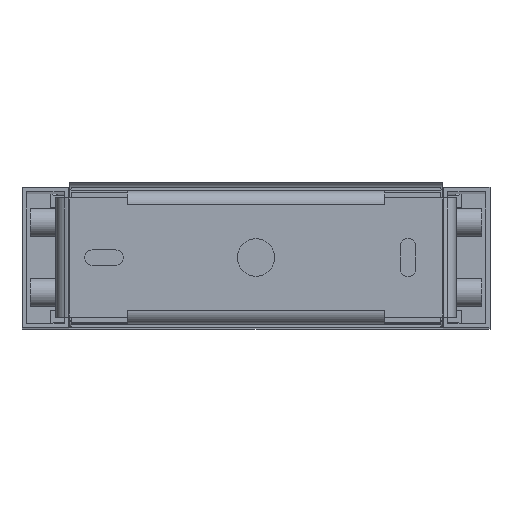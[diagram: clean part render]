
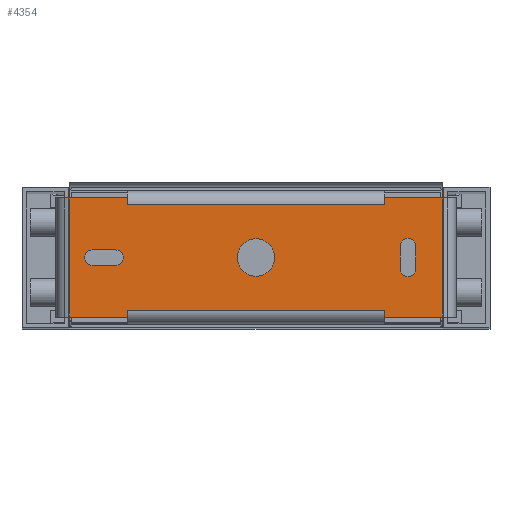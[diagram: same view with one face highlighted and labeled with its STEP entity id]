
A CAD part, top view. The second image highlights one B-rep face of the part: STEP entity #4354.
In plain terms, the highlighted planar face has unit normal (0, 0, 1).
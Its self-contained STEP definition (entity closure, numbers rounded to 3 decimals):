
#3125=CARTESIAN_POINT('',(-70.,0.,399.));
#3126=DIRECTION('',(0.,0.,-1.));
#3127=DIRECTION('',(0.,-1.,0.));
#3128=AXIS2_PLACEMENT_3D('',#3125,#3126,#3127);
#3130=DIRECTION('',(-1.,0.,0.));
#3131=VECTOR('',#3130,10.);
#3132=CARTESIAN_POINT('',(-60.,-3.25,399.));
#3133=LINE('',#3132,#3131);
#3134=CARTESIAN_POINT('',(-60.,0.,399.));
#3135=DIRECTION('',(0.,0.,-1.));
#3136=DIRECTION('',(0.,1.,0.));
#3137=AXIS2_PLACEMENT_3D('',#3134,#3135,#3136);
#3139=DIRECTION('',(1.,0.,0.));
#3140=VECTOR('',#3139,10.);
#3141=CARTESIAN_POINT('',(-70.,3.25,399.));
#3142=LINE('',#3141,#3140);
#3143=DIRECTION('',(0.,1.,0.));
#3144=VECTOR('',#3143,10.);
#3145=CARTESIAN_POINT('',(61.75,-5.,399.));
#3146=LINE('',#3145,#3144);
#3147=CARTESIAN_POINT('',(65.,-5.,399.));
#3148=DIRECTION('',(0.,0.,-1.));
#3149=DIRECTION('',(1.,0.,0.));
#3150=AXIS2_PLACEMENT_3D('',#3147,#3148,#3149);
#3152=DIRECTION('',(0.,-1.,0.));
#3153=VECTOR('',#3152,10.);
#3154=CARTESIAN_POINT('',(68.25,5.,399.));
#3155=LINE('',#3154,#3153);
#3156=CARTESIAN_POINT('',(65.,5.,399.));
#3157=DIRECTION('',(0.,0.,-1.));
#3158=DIRECTION('',(-1.,0.,0.));
#3159=AXIS2_PLACEMENT_3D('',#3156,#3157,#3158);
#3161=CARTESIAN_POINT('',(0.,0.,399.));
#3162=DIRECTION('',(0.,0.,-1.));
#3163=DIRECTION('',(1.,0.,0.));
#3164=AXIS2_PLACEMENT_3D('',#3161,#3162,#3163);
#3166=CARTESIAN_POINT('',(0.,0.,399.));
#3167=DIRECTION('',(0.,0.,-1.));
#3168=DIRECTION('',(-1.,0.,0.));
#3169=AXIS2_PLACEMENT_3D('',#3166,#3167,#3168);
#3171=DIRECTION('',(-1.,0.,0.));
#3172=VECTOR('',#3171,110.);
#3173=CARTESIAN_POINT('',(55.,22.5,399.));
#3174=LINE('',#3173,#3172);
#3175=DIRECTION('',(0.,1.,0.));
#3176=VECTOR('',#3175,3.);
#3177=CARTESIAN_POINT('',(55.,22.5,399.));
#3178=LINE('',#3177,#3176);
#3179=DIRECTION('',(1.,0.,0.));
#3180=VECTOR('',#3179,25.);
#3181=CARTESIAN_POINT('',(55.,25.5,399.));
#3182=LINE('',#3181,#3180);
#3183=DIRECTION('',(0.,-1.,0.));
#3184=VECTOR('',#3183,0.5);
#3185=CARTESIAN_POINT('',(80.,25.5,399.));
#3186=LINE('',#3185,#3184);
#3187=DIRECTION('',(-1.,0.,0.));
#3188=VECTOR('',#3187,0.5);
#3189=CARTESIAN_POINT('',(80.,25.,399.));
#3190=LINE('',#3189,#3188);
#3191=DIRECTION('',(0.,1.,0.));
#3192=VECTOR('',#3191,50.);
#3193=CARTESIAN_POINT('',(79.5,-25.,399.));
#3194=LINE('',#3193,#3192);
#3195=DIRECTION('',(1.,0.,0.));
#3196=VECTOR('',#3195,0.5);
#3197=CARTESIAN_POINT('',(79.5,-25.,399.));
#3198=LINE('',#3197,#3196);
#3199=DIRECTION('',(0.,-1.,0.));
#3200=VECTOR('',#3199,0.5);
#3201=CARTESIAN_POINT('',(80.,-25.,399.));
#3202=LINE('',#3201,#3200);
#3203=DIRECTION('',(-1.,0.,0.));
#3204=VECTOR('',#3203,25.);
#3205=CARTESIAN_POINT('',(80.,-25.5,399.));
#3206=LINE('',#3205,#3204);
#3207=DIRECTION('',(0.,1.,0.));
#3208=VECTOR('',#3207,3.);
#3209=CARTESIAN_POINT('',(55.,-25.5,399.));
#3210=LINE('',#3209,#3208);
#3211=DIRECTION('',(1.,0.,0.));
#3212=VECTOR('',#3211,110.);
#3213=CARTESIAN_POINT('',(-55.,-22.5,399.));
#3214=LINE('',#3213,#3212);
#3215=DIRECTION('',(0.,-1.,0.));
#3216=VECTOR('',#3215,3.);
#3217=CARTESIAN_POINT('',(-55.,-22.5,399.));
#3218=LINE('',#3217,#3216);
#3219=DIRECTION('',(-1.,0.,0.));
#3220=VECTOR('',#3219,25.);
#3221=CARTESIAN_POINT('',(-55.,-25.5,399.));
#3222=LINE('',#3221,#3220);
#3223=DIRECTION('',(0.,1.,0.));
#3224=VECTOR('',#3223,0.5);
#3225=CARTESIAN_POINT('',(-80.,-25.5,399.));
#3226=LINE('',#3225,#3224);
#3227=DIRECTION('',(1.,0.,0.));
#3228=VECTOR('',#3227,0.5);
#3229=CARTESIAN_POINT('',(-80.,-25.,399.));
#3230=LINE('',#3229,#3228);
#3231=DIRECTION('',(0.,-1.,0.));
#3232=VECTOR('',#3231,50.);
#3233=CARTESIAN_POINT('',(-79.5,25.,399.));
#3234=LINE('',#3233,#3232);
#3235=DIRECTION('',(-1.,0.,0.));
#3236=VECTOR('',#3235,0.5);
#3237=CARTESIAN_POINT('',(-79.5,25.,399.));
#3238=LINE('',#3237,#3236);
#3239=DIRECTION('',(0.,1.,0.));
#3240=VECTOR('',#3239,0.5);
#3241=CARTESIAN_POINT('',(-80.,25.,399.));
#3242=LINE('',#3241,#3240);
#3243=DIRECTION('',(1.,0.,0.));
#3244=VECTOR('',#3243,25.);
#3245=CARTESIAN_POINT('',(-80.,25.5,399.));
#3246=LINE('',#3245,#3244);
#3247=DIRECTION('',(0.,-1.,0.));
#3248=VECTOR('',#3247,3.);
#3249=CARTESIAN_POINT('',(-55.,25.5,399.));
#3250=LINE('',#3249,#3248);
#4021=CARTESIAN_POINT('',(8.,0.,399.));
#4022=CARTESIAN_POINT('',(-8.,0.,399.));
#4023=VERTEX_POINT('',#4021);
#4024=VERTEX_POINT('',#4022);
#4025=CARTESIAN_POINT('',(-70.,-3.25,399.));
#4026=CARTESIAN_POINT('',(-70.,3.25,399.));
#4027=VERTEX_POINT('',#4025);
#4028=VERTEX_POINT('',#4026);
#4029=CARTESIAN_POINT('',(-60.,3.25,399.));
#4030=VERTEX_POINT('',#4029);
#4031=CARTESIAN_POINT('',(-60.,-3.25,399.));
#4032=VERTEX_POINT('',#4031);
#4033=CARTESIAN_POINT('',(61.75,-5.,399.));
#4034=CARTESIAN_POINT('',(61.75,5.,399.));
#4035=VERTEX_POINT('',#4033);
#4036=VERTEX_POINT('',#4034);
#4037=CARTESIAN_POINT('',(68.25,5.,399.));
#4038=VERTEX_POINT('',#4037);
#4039=CARTESIAN_POINT('',(68.25,-5.,399.));
#4040=VERTEX_POINT('',#4039);
#4097=CARTESIAN_POINT('',(55.,22.5,399.));
#4098=CARTESIAN_POINT('',(-55.,22.5,399.));
#4099=VERTEX_POINT('',#4097);
#4100=VERTEX_POINT('',#4098);
#4101=CARTESIAN_POINT('',(55.,25.5,399.));
#4102=VERTEX_POINT('',#4101);
#4103=CARTESIAN_POINT('',(-55.,25.5,399.));
#4104=VERTEX_POINT('',#4103);
#4113=CARTESIAN_POINT('',(-55.,-22.5,399.));
#4114=CARTESIAN_POINT('',(55.,-22.5,399.));
#4115=VERTEX_POINT('',#4113);
#4116=VERTEX_POINT('',#4114);
#4117=CARTESIAN_POINT('',(-55.,-25.5,399.));
#4118=VERTEX_POINT('',#4117);
#4119=CARTESIAN_POINT('',(55.,-25.5,399.));
#4120=VERTEX_POINT('',#4119);
#4121=CARTESIAN_POINT('',(-79.5,25.,399.));
#4122=CARTESIAN_POINT('',(-79.5,-25.,399.));
#4123=VERTEX_POINT('',#4121);
#4124=VERTEX_POINT('',#4122);
#4125=CARTESIAN_POINT('',(-80.,25.,399.));
#4126=VERTEX_POINT('',#4125);
#4127=CARTESIAN_POINT('',(-80.,-25.,399.));
#4128=VERTEX_POINT('',#4127);
#4129=CARTESIAN_POINT('',(79.5,-25.,399.));
#4130=CARTESIAN_POINT('',(79.5,25.,399.));
#4131=VERTEX_POINT('',#4129);
#4132=VERTEX_POINT('',#4130);
#4133=CARTESIAN_POINT('',(80.,-25.,399.));
#4134=VERTEX_POINT('',#4133);
#4135=CARTESIAN_POINT('',(80.,25.,399.));
#4136=VERTEX_POINT('',#4135);
#4137=CARTESIAN_POINT('',(-80.,-25.5,399.));
#4138=VERTEX_POINT('',#4137);
#4139=CARTESIAN_POINT('',(-80.,25.5,399.));
#4140=VERTEX_POINT('',#4139);
#4141=CARTESIAN_POINT('',(80.,25.5,399.));
#4142=VERTEX_POINT('',#4141);
#4143=CARTESIAN_POINT('',(80.,-25.5,399.));
#4144=VERTEX_POINT('',#4143);
#4282=CARTESIAN_POINT('',(0.,0.,399.));
#4283=DIRECTION('',(0.,0.,-1.));
#4284=DIRECTION('',(1.,0.,0.));
#4285=AXIS2_PLACEMENT_3D('',#4282,#4283,#4284);
#4286=PLANE('',#4285);
#4288=ORIENTED_EDGE('',*,*,#4287,.F.);
#4290=ORIENTED_EDGE('',*,*,#4289,.T.);
#4292=ORIENTED_EDGE('',*,*,#4291,.T.);
#4294=ORIENTED_EDGE('',*,*,#4293,.T.);
#4296=ORIENTED_EDGE('',*,*,#4295,.T.);
#4298=ORIENTED_EDGE('',*,*,#4297,.F.);
#4300=ORIENTED_EDGE('',*,*,#4299,.T.);
#4302=ORIENTED_EDGE('',*,*,#4301,.T.);
#4304=ORIENTED_EDGE('',*,*,#4303,.T.);
#4306=ORIENTED_EDGE('',*,*,#4305,.T.);
#4308=ORIENTED_EDGE('',*,*,#4307,.F.);
#4310=ORIENTED_EDGE('',*,*,#4309,.T.);
#4312=ORIENTED_EDGE('',*,*,#4311,.T.);
#4314=ORIENTED_EDGE('',*,*,#4313,.T.);
#4316=ORIENTED_EDGE('',*,*,#4315,.T.);
#4318=ORIENTED_EDGE('',*,*,#4317,.F.);
#4320=ORIENTED_EDGE('',*,*,#4319,.T.);
#4322=ORIENTED_EDGE('',*,*,#4321,.T.);
#4324=ORIENTED_EDGE('',*,*,#4323,.T.);
#4326=ORIENTED_EDGE('',*,*,#4325,.T.);
#4327=EDGE_LOOP('',(#4288,#4290,#4292,#4294,#4296,#4298,#4300,#4302,#4304,#4306,
#4308,#4310,#4312,#4314,#4316,#4318,#4320,#4322,#4324,#4326));
#4328=FACE_OUTER_BOUND('',#4327,.F.);
#4330=ORIENTED_EDGE('',*,*,#4329,.F.);
#4332=ORIENTED_EDGE('',*,*,#4331,.F.);
#4334=ORIENTED_EDGE('',*,*,#4333,.F.);
#4336=ORIENTED_EDGE('',*,*,#4335,.F.);
#4337=EDGE_LOOP('',(#4330,#4332,#4334,#4336));
#4338=FACE_BOUND('',#4337,.F.);
#4340=ORIENTED_EDGE('',*,*,#4339,.F.);
#4342=ORIENTED_EDGE('',*,*,#4341,.F.);
#4343=EDGE_LOOP('',(#4340,#4342));
#4344=FACE_BOUND('',#4343,.F.);
#4345=ORIENTED_EDGE('',*,*,#4272,.F.);
#4347=ORIENTED_EDGE('',*,*,#4346,.F.);
#4349=ORIENTED_EDGE('',*,*,#4348,.F.);
#4351=ORIENTED_EDGE('',*,*,#4350,.F.);
#4352=EDGE_LOOP('',(#4345,#4347,#4349,#4351));
#4353=FACE_BOUND('',#4352,.F.);
#4354=ADVANCED_FACE('',(#4328,#4338,#4344,#4353),#4286,.F.);
#3129=CIRCLE('',#3128,3.25);
#3138=CIRCLE('',#3137,3.25);
#3151=CIRCLE('',#3150,3.25);
#3160=CIRCLE('',#3159,3.25);
#3165=CIRCLE('',#3164,8.);
#3170=CIRCLE('',#3169,8.);
#4272=EDGE_CURVE('',#4027,#4028,#3129,.T.);
#4287=EDGE_CURVE('',#4099,#4100,#3174,.T.);
#4289=EDGE_CURVE('',#4099,#4102,#3178,.T.);
#4291=EDGE_CURVE('',#4102,#4142,#3182,.T.);
#4293=EDGE_CURVE('',#4142,#4136,#3186,.T.);
#4295=EDGE_CURVE('',#4136,#4132,#3190,.T.);
#4297=EDGE_CURVE('',#4131,#4132,#3194,.T.);
#4299=EDGE_CURVE('',#4131,#4134,#3198,.T.);
#4301=EDGE_CURVE('',#4134,#4144,#3202,.T.);
#4303=EDGE_CURVE('',#4144,#4120,#3206,.T.);
#4305=EDGE_CURVE('',#4120,#4116,#3210,.T.);
#4307=EDGE_CURVE('',#4115,#4116,#3214,.T.);
#4309=EDGE_CURVE('',#4115,#4118,#3218,.T.);
#4311=EDGE_CURVE('',#4118,#4138,#3222,.T.);
#4313=EDGE_CURVE('',#4138,#4128,#3226,.T.);
#4315=EDGE_CURVE('',#4128,#4124,#3230,.T.);
#4317=EDGE_CURVE('',#4123,#4124,#3234,.T.);
#4319=EDGE_CURVE('',#4123,#4126,#3238,.T.);
#4321=EDGE_CURVE('',#4126,#4140,#3242,.T.);
#4323=EDGE_CURVE('',#4140,#4104,#3246,.T.);
#4325=EDGE_CURVE('',#4104,#4100,#3250,.T.);
#4329=EDGE_CURVE('',#4035,#4036,#3146,.T.);
#4331=EDGE_CURVE('',#4040,#4035,#3151,.T.);
#4333=EDGE_CURVE('',#4038,#4040,#3155,.T.);
#4335=EDGE_CURVE('',#4036,#4038,#3160,.T.);
#4339=EDGE_CURVE('',#4023,#4024,#3165,.T.);
#4341=EDGE_CURVE('',#4024,#4023,#3170,.T.);
#4346=EDGE_CURVE('',#4032,#4027,#3133,.T.);
#4348=EDGE_CURVE('',#4030,#4032,#3138,.T.);
#4350=EDGE_CURVE('',#4028,#4030,#3142,.T.);
